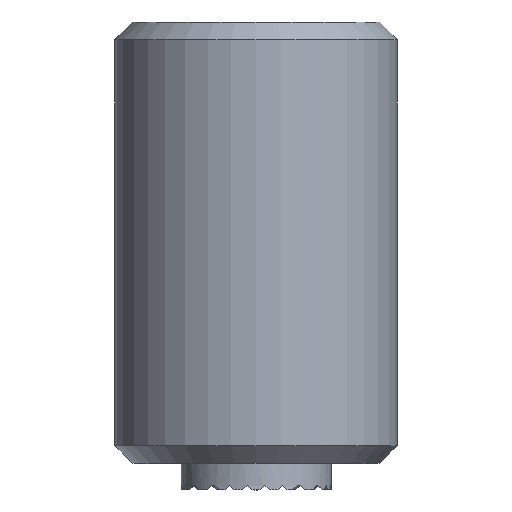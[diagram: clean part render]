
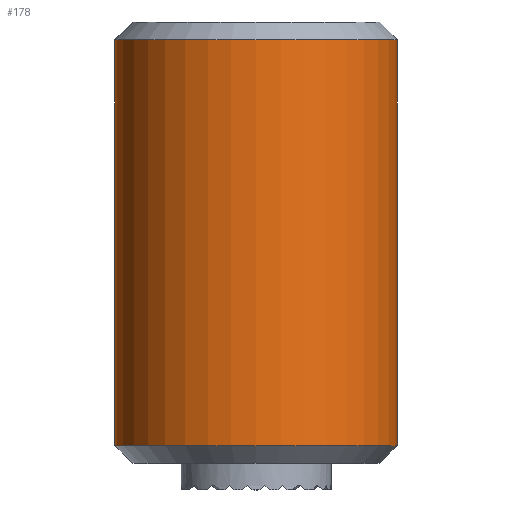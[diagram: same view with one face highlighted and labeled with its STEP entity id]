
A CAD part, top view. The second image highlights one B-rep face of the part: STEP entity #178.
In plain terms, the highlighted cylindrical face has radius 8 mm (diameter 16 mm), a full revolution.
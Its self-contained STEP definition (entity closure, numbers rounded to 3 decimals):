
#178 = ADVANCED_FACE( '', ( #521, #522 ), #523, .T. );
#521 = FACE_OUTER_BOUND( '', #1183, .T. );
#522 = FACE_OUTER_BOUND( '', #1184, .T. );
#523 = CYLINDRICAL_SURFACE( '', #1185, 8. );
#1183 = EDGE_LOOP( '', ( #1873 ) );
#1184 = EDGE_LOOP( '', ( #1874 ) );
#1185 = AXIS2_PLACEMENT_3D( '', #1875, #1876, #1877 );
#1873 = ORIENTED_EDGE( '', *, *, #4196, .F. );
#1874 = ORIENTED_EDGE( '', *, *, #4179, .T. );
#1875 = CARTESIAN_POINT( '', ( 0., 0., 0. ) );
#1876 = DIRECTION( '', ( 0., 1., 0. ) );
#1877 = DIRECTION( '', ( 0., 0., -1. ) );
#4179 = EDGE_CURVE( '', #4870, #4870, #4871, .T. );
#4196 = EDGE_CURVE( '', #4902, #4902, #4903, .T. );
#4870 = VERTEX_POINT( '', #5936 );
#4871 = CIRCLE( '', #5937, 8. );
#4902 = VERTEX_POINT( '', #5979 );
#4903 = CIRCLE( '', #5980, 8. );
#5936 = CARTESIAN_POINT( '', ( 0., 24., -8. ) );
#5937 = AXIS2_PLACEMENT_3D( '', #7596, #7597, #7598 );
#5979 = CARTESIAN_POINT( '', ( 0., 1., -8. ) );
#5980 = AXIS2_PLACEMENT_3D( '', #7625, #7626, #7627 );
#7596 = CARTESIAN_POINT( '', ( 0., 24., 0. ) );
#7597 = DIRECTION( '', ( 0., -1., 0. ) );
#7598 = DIRECTION( '', ( 0., 0., -1. ) );
#7625 = CARTESIAN_POINT( '', ( 0., 1., 0. ) );
#7626 = DIRECTION( '', ( 0., -1., 0. ) );
#7627 = DIRECTION( '', ( 0., 0., -1. ) );
